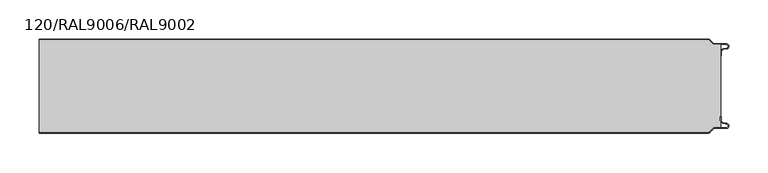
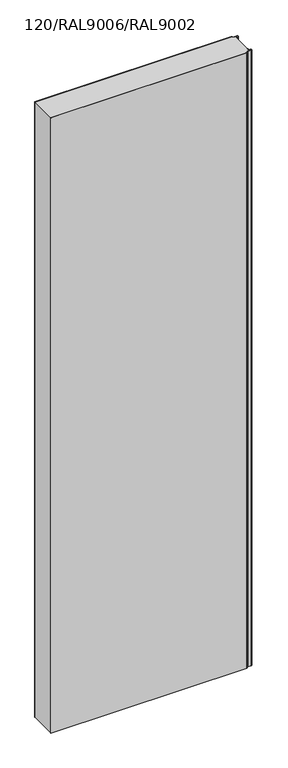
"""IFC4 building model written with IfcOpenShell, lengths in millimetres: plate geometry, TR_C_V_FTV_Panel_cut_TONGUE : 120/RAL9006/RAL9002."""

from ifc_helpers import new_model, si_unit, point, frame_2d, origin, origin_with_axes, place, context, project, spatial, polyline, circle_curve, trimmed, segment, composite_curve, outline, extrude, source, transform, mapped, element, save


def plate_120_ral9006_ral9002_b045842a(model_context):
    return source(origin(), model_context, "Body", "SweptSolid", [
        extrude(outline(composite_curve([segment(polyline([(499.8000012, -103.1130328), (499.8000012, -99.0), (500.6000012, -99.0), (500.6000012, -103.1130328)]), True, "CONTINUOUS"), segment(trimmed(circle_curve(frame_2d((504.3500012, -103.1130328)), 3.75), [point((500.6000012, -103.1130328))], [point((503.6988205, -106.8060618))], True, "CARTESIAN"), True, "CONTINUOUS"), segment(polyline([(503.6988205, -106.8060618), (507.9143577, -107.5493748)]), True, "CONTINUOUS"), segment(trimmed(circle_curve(frame_2d((507.3500012, -110.75)), 3.25), [point((507.9143577, -107.5493748))], [point((507.3500012, -114.0))], False, "CARTESIAN"), True, "CONTINUOUS"), segment(polyline([(507.3500012, -114.0), (492.6000012, -114.0)]), True, "CONTINUOUS"), segment(trimmed(circle_curve(frame_2d((492.6000012, -116.5)), 2.5), [point((492.6000012, -114.0))], [point((490.8322342, -114.732233))], True, "CARTESIAN"), True, "CONTINUOUS"), segment(polyline([(490.8322342, -114.732233), (486.4431469, -119.1213203)]), True, "CONTINUOUS"), segment(trimmed(circle_curve(frame_2d((484.3218266, -117.0)), 3.0), [point((486.4431469, -119.1213203))], [point((484.3218266, -120.0))], False, "CARTESIAN"), True, "CONTINUOUS"), segment(polyline([(484.3218266, -120.0), (-370.0000002, -120.0), (-370.0000002, -119.2), (484.3218266, -119.2)]), True, "CONTINUOUS"), segment(trimmed(circle_curve(frame_2d((484.3218266, -117.0)), 2.2), [point((484.3218266, -119.2))], [point((485.8774615, -118.5556349))], True, "CARTESIAN"), True, "CONTINUOUS"), segment(polyline([(485.8774615, -118.5556349), (490.2665488, -114.1665476)]), True, "CONTINUOUS"), segment(trimmed(circle_curve(frame_2d((492.6000012, -116.5)), 3.3), [point((490.2665488, -114.1665476))], [point((492.6000012, -113.2))], False, "CARTESIAN"), True, "CONTINUOUS"), segment(polyline([(492.6000012, -113.2), (507.3500012, -113.2)]), True, "CONTINUOUS"), segment(trimmed(circle_curve(frame_2d((507.3500012, -110.75)), 2.45), [point((507.3500012, -113.2))], [point((507.7754392, -108.337221))], True, "CARTESIAN"), True, "CONTINUOUS"), segment(polyline([(507.7754392, -108.337221), (503.559902, -107.5939081)]), True, "CONTINUOUS"), segment(trimmed(circle_curve(frame_2d((504.3500012, -103.1130328)), 4.55), [point((503.559902, -107.5939081))], [point((499.8000012, -103.1130328))], False, "CARTESIAN"), True, "CONTINUOUS")], self_intersect=False)), origin_with_axes(), (0.0, 0.0, 1.0), 2830.0),
        extrude(outline(composite_curve([segment(trimmed(circle_curve(frame_2d((484.3218266, -3.0)), 2.2), [point((484.3218266, -0.8))], [point((485.8774615, -1.4443651))], False, "CARTESIAN"), True, "CONTINUOUS"), segment(polyline([(485.8774615, -1.4443651), (490.2665488, -5.8334524)]), True, "CONTINUOUS"), segment(trimmed(circle_curve(frame_2d((492.6000012, -3.5)), 3.3), [point((490.2665488, -5.8334524))], [point((492.6000012, -6.8))], True, "CARTESIAN"), True, "CONTINUOUS"), segment(polyline([(492.6000012, -6.8), (500.0, -6.8), (500.0, -113.2), (492.6000012, -113.2)]), True, "CONTINUOUS"), segment(trimmed(circle_curve(frame_2d((492.6000012, -116.5)), 3.3), [point((492.6000012, -113.2))], [point((490.2665488, -114.1665476))], True, "CARTESIAN"), True, "CONTINUOUS"), segment(polyline([(490.2665488, -114.1665476), (485.8774615, -118.5556349)]), True, "CONTINUOUS"), segment(trimmed(circle_curve(frame_2d((484.3218266, -117.0)), 2.2), [point((485.8774615, -118.5556349))], [point((484.3218266, -119.2))], False, "CARTESIAN"), True, "CONTINUOUS"), segment(polyline([(484.3218266, -119.2), (-370.0000002, -119.2), (-370.0000002, -0.8), (484.3218266, -0.8)]), True, "CONTINUOUS")], self_intersect=False)), origin_with_axes(), (0.0, 0.0, 1.0), 2830.0),
        extrude(outline(composite_curve([segment(trimmed(circle_curve(frame_2d((504.3500012, -16.8869672)), 4.55), [point((499.8000012, -16.8869672))], [point((503.559902, -12.4060919))], False, "CARTESIAN"), True, "CONTINUOUS"), segment(polyline([(503.559902, -12.4060919), (507.7754392, -11.662779)]), True, "CONTINUOUS"), segment(trimmed(circle_curve(frame_2d((507.3500012, -9.25)), 2.45), [point((507.7754392, -11.662779))], [point((507.3500012, -6.8))], True, "CARTESIAN"), True, "CONTINUOUS"), segment(polyline([(507.3500012, -6.8), (492.6000012, -6.8)]), True, "CONTINUOUS"), segment(trimmed(circle_curve(frame_2d((492.6000012, -3.5)), 3.3), [point((492.6000012, -6.8))], [point((490.2665488, -5.8334524))], False, "CARTESIAN"), True, "CONTINUOUS"), segment(polyline([(490.2665488, -5.8334524), (485.8774615, -1.4443651)]), True, "CONTINUOUS"), segment(trimmed(circle_curve(frame_2d((484.3218266, -3.0)), 2.2), [point((485.8774615, -1.4443651))], [point((484.3218266, -0.8))], True, "CARTESIAN"), True, "CONTINUOUS"), segment(polyline([(484.3218266, -0.8), (-370.0000002, -0.8), (-370.0000002, 0.0), (484.3218266, 0.0)]), True, "CONTINUOUS"), segment(trimmed(circle_curve(frame_2d((484.3218266, -3.0)), 3.0), [point((484.3218266, 0.0))], [point((486.4431469, -0.8786797))], False, "CARTESIAN"), True, "CONTINUOUS"), segment(polyline([(486.4431469, -0.8786797), (490.8322342, -5.267767)]), True, "CONTINUOUS"), segment(trimmed(circle_curve(frame_2d((492.6000012, -3.5)), 2.5), [point((490.8322342, -5.267767))], [point((492.6000012, -6.0))], True, "CARTESIAN"), True, "CONTINUOUS"), segment(polyline([(492.6000012, -6.0), (507.3500012, -6.0)]), True, "CONTINUOUS"), segment(trimmed(circle_curve(frame_2d((507.3500012, -9.25)), 3.25), [point((507.3500012, -6.0))], [point((507.9143577, -12.4506252))], False, "CARTESIAN"), True, "CONTINUOUS"), segment(polyline([(507.9143577, -12.4506252), (503.6988205, -13.1939382)]), True, "CONTINUOUS"), segment(trimmed(circle_curve(frame_2d((504.3500012, -16.8869672)), 3.75), [point((503.6988205, -13.1939382))], [point((500.6000012, -16.8869672))], True, "CARTESIAN"), True, "CONTINUOUS"), segment(polyline([(500.6000012, -16.8869672), (500.6000012, -21.0), (499.8000012, -21.0), (499.8000012, -16.8869672)]), True, "CONTINUOUS")], self_intersect=False)), origin_with_axes(), (0.0, 0.0, 1.0), 2830.0),
    ])


if __name__ == "__main__":
    model = new_model("IFC4")
    model_context = context("Model", 3, world=origin())
    ifc_project = project(units=[si_unit("LENGTHUNIT", "METRE", prefix="MILLI")], contexts=[model_context])
    site = spatial("IfcSite", under=ifc_project)
    building = spatial("IfcBuilding", under=site)
    placement = place(None, origin())
    plate_120_ral9006_ral9002_shape = plate_120_ral9006_ral9002_b045842a(model_context)
    element("IfcPlate", 1, ObjectType="TR_C_V_FTV_Panel_cut_TONGUE : 120/RAL9006/RAL9002", at=placement, inside=building, context=model_context, shape_type="MappedRepresentation", body=[
        mapped(plate_120_ral9006_ral9002_shape, transform((0.0, 0.0, 0.0), x_axis=(1.0, 0.0, 0.0), y_axis=(0.0, 1.0, 0.0), z_axis=(0.0, 0.0, 1.0))),
    ])
    save(model, "model.ifc")
